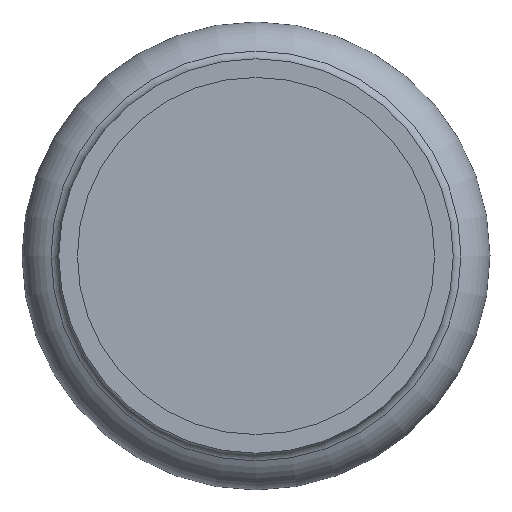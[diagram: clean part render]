
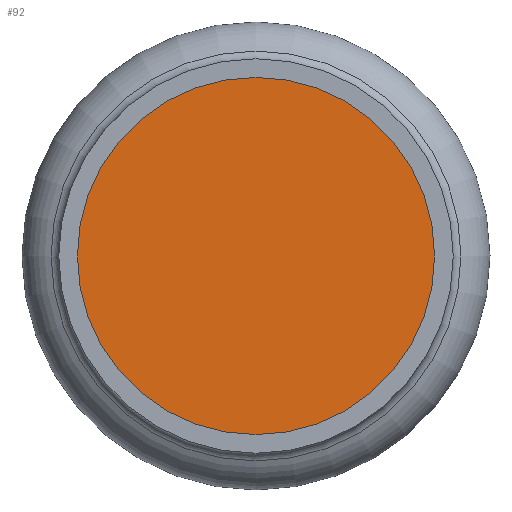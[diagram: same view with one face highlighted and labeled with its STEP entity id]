
A CAD part, front view. The second image highlights one B-rep face of the part: STEP entity #92.
In plain terms, the highlighted planar face has unit normal (0, -1, 0).
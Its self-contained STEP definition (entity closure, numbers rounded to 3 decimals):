
#92=ADVANCED_FACE('',(#406),#408,.T.);
#406=FACE_BOUND('',#407,.T.);
#407=EDGE_LOOP('',(#550));
#408=PLANE('',#409);
#409=AXIS2_PLACEMENT_3D('',#410,#411,#412);
#410=CARTESIAN_POINT('',(0.,7.281,0.));
#411=DIRECTION('',(0.,-1.,0.));
#412=DIRECTION('',(0.,0.,-1.));
#550=ORIENTED_EDGE('',*,*,#619,.T.);
#619=EDGE_CURVE('',#738,#738,#739,.F.);
#738=VERTEX_POINT('',#1914);
#739=CIRCLE('',#1915,14.15);
#1914=CARTESIAN_POINT('',(0.,7.281,14.15));
#1915=AXIS2_PLACEMENT_3D('',#1916,#1917,#1918);
#1916=CARTESIAN_POINT('',(0.,7.281,0.));
#1917=DIRECTION('',(0.,1.,0.));
#1918=DIRECTION('',(0.,0.,1.));
